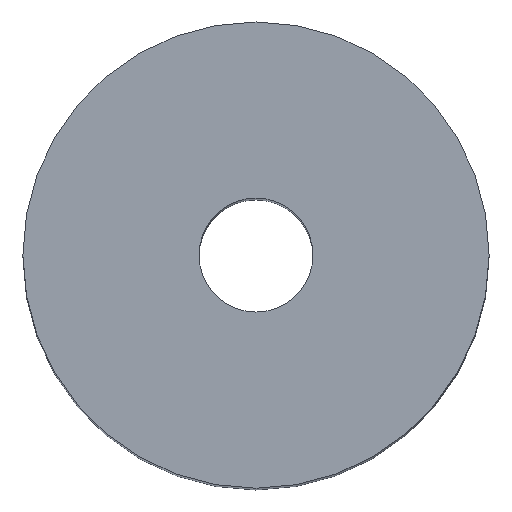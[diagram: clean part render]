
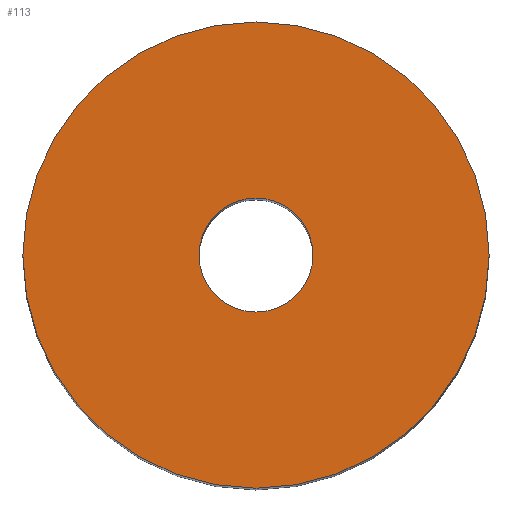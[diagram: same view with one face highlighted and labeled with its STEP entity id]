
A CAD part, top view. The second image highlights one B-rep face of the part: STEP entity #113.
In plain terms, the highlighted planar face has unit normal (0, 0, 1).
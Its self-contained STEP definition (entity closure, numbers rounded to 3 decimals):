
#113=ADVANCED_FACE('',(#121,#122),#119,.T.);
#119=PLANE('',#190);
#121=FACE_BOUND('',#125,.T.);
#122=FACE_BOUND('',#126,.T.);
#125=EDGE_LOOP('',(#133,#134));
#126=EDGE_LOOP('',(#135,#136));
#133=ORIENTED_EDGE('',*,*,#165,.T.);
#134=ORIENTED_EDGE('',*,*,#166,.T.);
#135=ORIENTED_EDGE('',*,*,#167,.F.);
#136=ORIENTED_EDGE('',*,*,#168,.F.);
#157=VERTEX_POINT('',#236);
#158=VERTEX_POINT('',#237);
#159=VERTEX_POINT('',#240);
#160=VERTEX_POINT('',#241);
#165=EDGE_CURVE('',#157,#158,#177,.T.);
#166=EDGE_CURVE('',#158,#157,#178,.T.);
#167=EDGE_CURVE('',#159,#160,#179,.T.);
#168=EDGE_CURVE('',#160,#159,#180,.T.);
#177=CIRCLE('',#186,45.);
#178=CIRCLE('',#187,45.);
#179=CIRCLE('',#188,11.);
#180=CIRCLE('',#189,11.);
#186=AXIS2_PLACEMENT_3D('',#235,#202,#203);
#187=AXIS2_PLACEMENT_3D('',#238,#204,#205);
#188=AXIS2_PLACEMENT_3D('',#239,#206,#207);
#189=AXIS2_PLACEMENT_3D('',#242,#208,#209);
#190=AXIS2_PLACEMENT_3D('',#243,#210,#211);
#202=DIRECTION('',(0.,0.,1.));
#203=DIRECTION('',(0.,1.,0.));
#204=DIRECTION('',(0.,0.,1.));
#205=DIRECTION('',(0.,-1.,0.));
#206=DIRECTION('',(0.,0.,1.));
#207=DIRECTION('',(0.,-1.,0.));
#208=DIRECTION('',(0.,0.,1.));
#209=DIRECTION('',(0.,1.,0.));
#210=DIRECTION('',(0.,0.,1.));
#211=DIRECTION('',(0.,1.,0.));
#235=CARTESIAN_POINT('',(0.,0.,200.));
#236=CARTESIAN_POINT('',(-45.,0.,200.));
#237=CARTESIAN_POINT('',(45.,0.,200.));
#238=CARTESIAN_POINT('',(0.,0.,200.));
#239=CARTESIAN_POINT('',(0.,0.,200.));
#240=CARTESIAN_POINT('',(11.,0.,200.));
#241=CARTESIAN_POINT('',(-11.,0.,200.));
#242=CARTESIAN_POINT('',(0.,0.,200.));
#243=CARTESIAN_POINT('',(0.,0.,200.));
